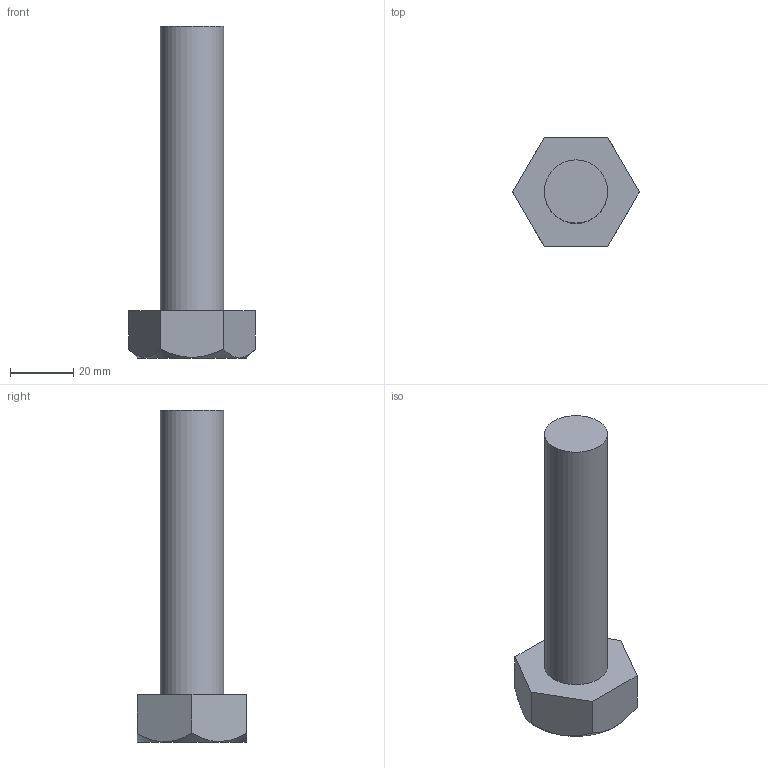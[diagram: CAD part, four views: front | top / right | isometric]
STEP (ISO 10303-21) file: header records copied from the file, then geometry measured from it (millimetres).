
FILE_DESCRIPTION(/* description */ (''),/* implementation_level */ '2;1');
FILE_NAME(/* name */ 'Bolt',/* time_stamp */ '2005-04-08T15:54:43+05:00',/* author */ (''),/* organization */ (''),/* preprocessor_version */ 'ST-DEVELOPER v9',/* originating_system */ 'UGS - NX 3.0',/* authorisation */ '');
FILE_SCHEMA (('CONFIG_CONTROL_DESIGN'));
Length unit declared in the file: millimetre
Products named in the file (1): CADCF329m9n1
Bounding box: 40 x 34.64 x 105 mm (x, y, z)
Volume: 43774.4 mm3; surface area: 9455.8 mm2
Topology: 1 solids, 1 shells, 11 faces, 23 edges, 15 vertices
Faces by surface type: plane 9, cone 1, cylinder 1
Full cylindrical faces by diameter (mm): 20 x1
Entity records: 398 total; most frequent: CARTESIAN_POINT 88, ORIENTED_EDGE 44, DIRECTION 42, EDGE_CURVE 22, VERTEX_POINT 15, AXIS2_PLACEMENT_3D 15, EDGE_LOOP 13, LINE 12
